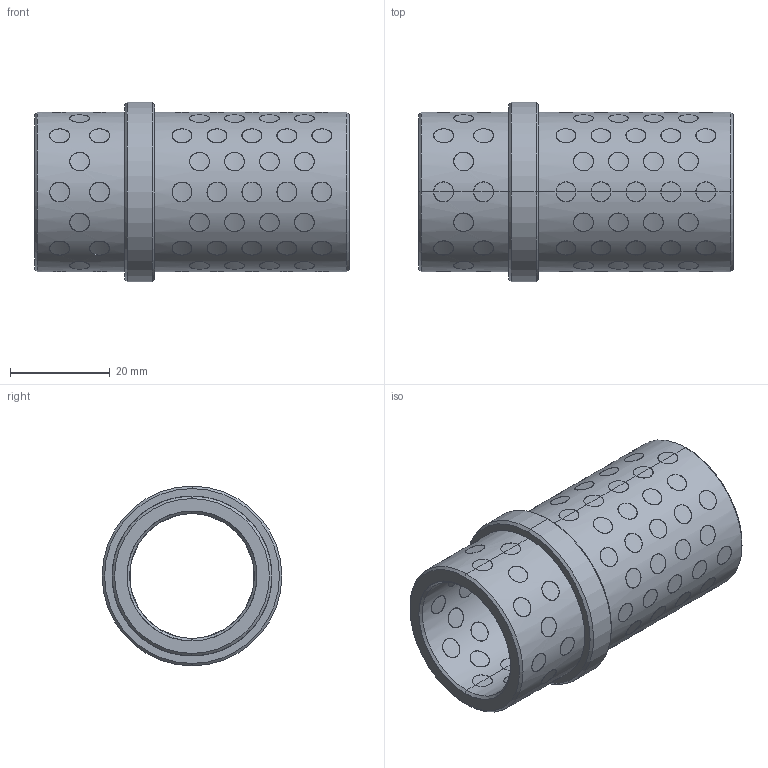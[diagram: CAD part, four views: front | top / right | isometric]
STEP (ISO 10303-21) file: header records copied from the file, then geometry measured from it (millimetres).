
FILE_DESCRIPTION(('CATIA V5 STEP Exchange'),'2;1');
FILE_NAME('C:\Users\Utente\Desktop\3D files G402\G4022545.stp','2020-04-22T08:43:50+00:00',('none'),('none'),'CATIA Version 5 Release 20 GA (IN-10)','CATIA V5 STEP AP203','none');
FILE_SCHEMA(('CONFIG_CONTROL_DESIGN'));
Products named in the file (1): G4022545
Bounding box: 63 x 36 x 36 mm (x, y, z)
Surface area: 20612.7 mm2 (no closed solid volume)
Topology: 0 solids, 628 shells, 628 faces, 2736 edges, 2736 vertices
Faces by surface type: cylinder 612, revolution 12, plane 4
Entity records: 55582 total; most frequent: CARTESIAN_POINT 36669, ORIENTED_EDGE 2736, EDGE_CURVE 2736, VERTEX_POINT 2736, DIRECTION 2211, B_SPLINE_CURVE_WITH_KNOTS 1781, VECTOR 920, LINE 920
